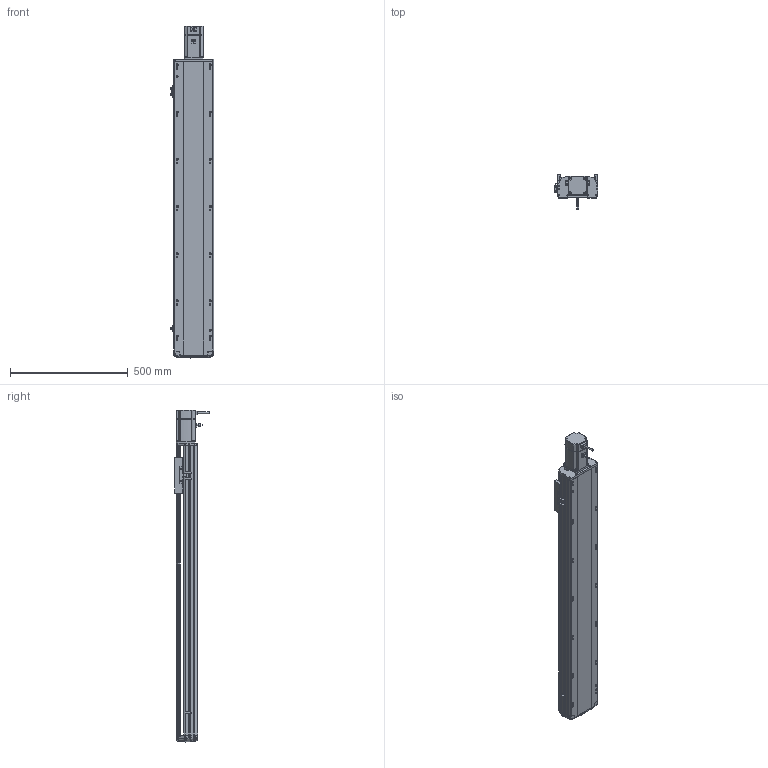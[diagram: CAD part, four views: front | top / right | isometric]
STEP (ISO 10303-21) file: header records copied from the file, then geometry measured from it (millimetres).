
FILE_DESCRIPTION (( 'STEP AP214' ), '1' );
FILE_NAME ('RTH17-XX-1000-E-M75-C4（方程式）.STEP', '2025-10-24T09:57:50', ( '' ), ( '' ), 'SwSTEP 2.0', 'SolidWorks 2018', '' );
FILE_SCHEMA (( 'AUTOMOTIVE_DESIGN' ));
Length unit declared in the file: millimetre
Products named in the file (9): N_RTH17-E-008-P75电机板^RTH17-XX-XX-E-M75-C4（方程式）; N_RTH-L-012 感应片(外置)^RTH17-XX-XX-E-M75-C4（方程式）; N_RTH17-E-004丝杆螺母连接座^RTH17-XX-XX-E-M75-C4（方程式）; N_RTH17-E-011底座^RTH17-XX-XX-E-M75-C4（方程式）; N_M75^RTH17-XX-XX-E-M75-C4（方程式）; N_RTH17-GY-001P^RTH17-XX-XX-E-M75-C4（方程式）; RTH17-XX-1000-E-M75-C4（方程式）; N_OMRON EE-SX672 換覜ん^RTH17-XX-XX-E-M75-C4ㄗ源最宒ㄘ; N_RTH17-E-007上盖^RTH17-XX-XX-E-M75-C4（方程式）
Assembly tree (10 placements, depth 2):
  RTH17-XX-1000-E-M75-C4（方程式）
    N_RTH17-E-011底座^RTH17-XX-XX-E-M75-C4（方程式）
    N_RTH17-E-007上盖^RTH17-XX-XX-E-M75-C4（方程式）
    N_M75^RTH17-XX-XX-E-M75-C4（方程式）
    N_RTH17-E-008-P75电机板^RTH17-XX-XX-E-M75-C4（方程式）
    N_OMRON EE-SX672 換覜ん^RTH17-XX-XX-E-M75-C4ㄗ源最宒ㄘ  x3
    N_RTH-L-012 感应片(外置)^RTH17-XX-XX-E-M75-C4（方程式）
    N_RTH17-E-004丝杆螺母连接座^RTH17-XX-XX-E-M75-C4（方程式）
    N_RTH17-GY-001P^RTH17-XX-XX-E-M75-C4（方程式）
Bounding box: 183.5 x 145.7 x 1408.19 mm (x, y, z)
Volume: 10253499.3 mm3; surface area: 1333882.1 mm2
Topology: 9 solids, 11 shells, 1796 faces, 4983 edges, 3230 vertices
Faces by surface type: plane 826, cylinder 556, bspline 377, cone 28, torus 9
Entity records: 53302 total; most frequent: CARTESIAN_POINT 20917, ORIENTED_EDGE 6990, DIRECTION 5867, EDGE_CURVE 3499, VERTEX_POINT 2266, AXIS2_PLACEMENT_3D 2003, LINE 1861, VECTOR 1861
